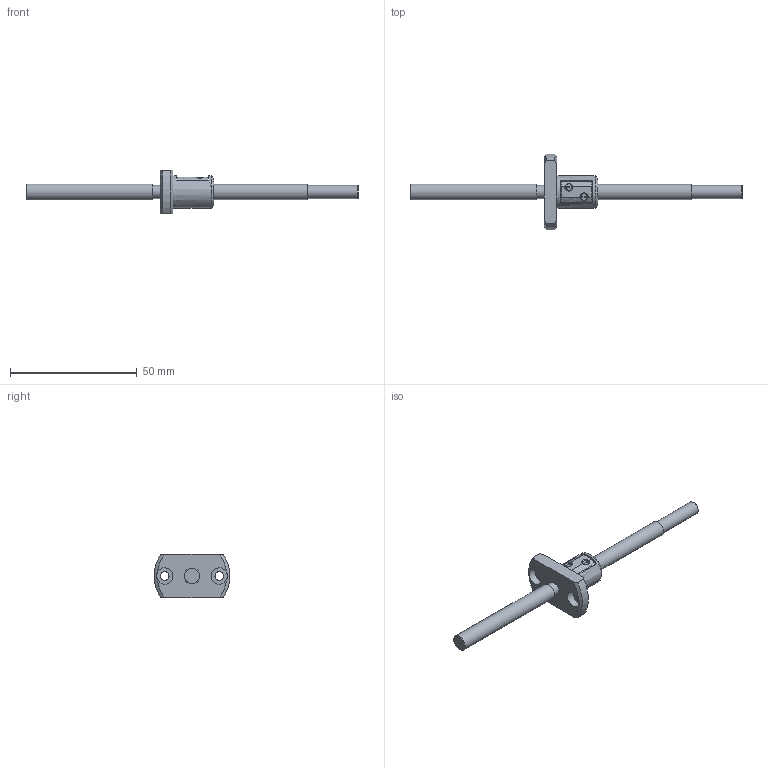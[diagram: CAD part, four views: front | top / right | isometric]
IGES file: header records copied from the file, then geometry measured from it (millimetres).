
Start section: Data from Parasolid IGES Translator 26.0.171, Copyright(c) 2006 Siemens PLM Software. All Rights Reserved.
Global section: file name: MBF0601-3.7GT+131LC3A(0).igs; native system: By Siemens PLM Incorporated; preprocessor: XPlus GENERIC/IGES 26.0.171; author: Noname; organization: Noname; date: 20240715.080313; units: millimetre
Bounding box: 131 x 29.89 x 17 mm (x, y, z)
Surface area: 5016.9 mm2 (no closed solid volume)
Topology: 0 solids, 0 shells, 65 faces, 328 edges, 310 vertices
Faces by surface type: revolution 33, extrusion 32
